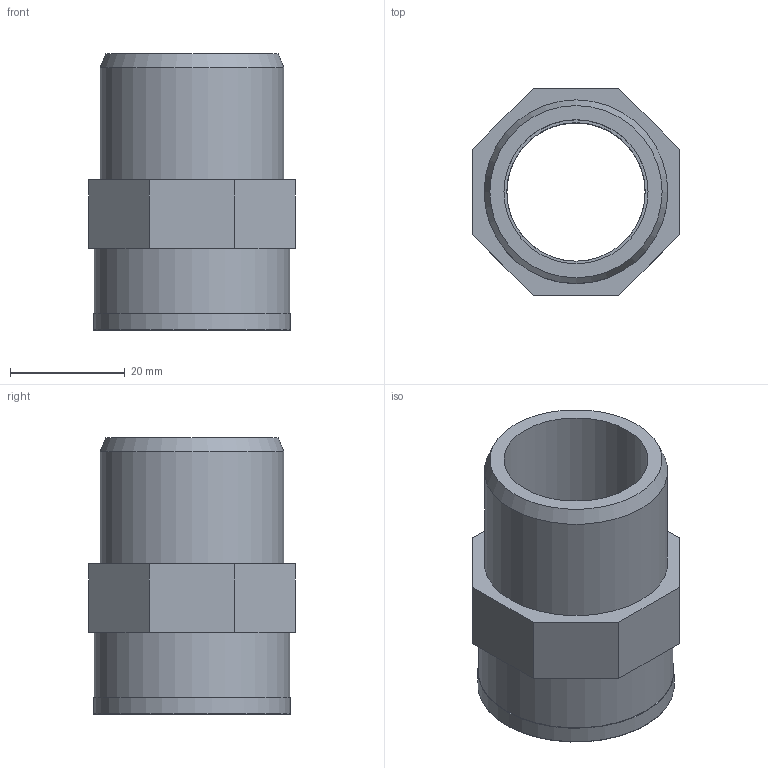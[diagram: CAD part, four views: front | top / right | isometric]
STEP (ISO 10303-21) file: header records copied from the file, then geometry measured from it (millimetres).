
FILE_DESCRIPTION(/* description */ (''),/* implementation_level */ '2;1');
FILE_NAME(/* name */ 'C:\Users\POLYPIPE\Desktop\DATASET INVENTOR\LIBRERIA EFFAST\RACCORDI 3DxWEB\RGR\3D_RGRAFR\3D_RGRAFR032C.stp',/* time_stamp */ '2018-01-19T17:30:46+01:00',/* author */ ('POLYPIPE'),/* organization */ (''),/* preprocessor_version */ 'ST-DEVELOPER v16.1',/* originating_system */ 'Autodesk Inventor 2016',/* authorisation */ '');
FILE_SCHEMA (('CONFIG_CONTROL_DESIGN'));
Length unit declared in the file: centimetre
Products named in the file (1): 3D_RGRAFR032C
Bounding box: 36 x 36 x 48.25 mm (x, y, z)
Volume: 19833.8 mm3; surface area: 11038.8 mm2
Topology: 1 solids, 1 shells, 29 faces, 64 edges, 42 vertices
Faces by surface type: plane 16, cylinder 6, bspline 5, cone 1, torus 1
Full cylindrical faces by diameter (mm): 24.117 x1, 25.1 x1, 28 x1, 32 x1, 34 x1, 34.2 x1
Entity records: 4418 total; most frequent: CARTESIAN_POINT 3768, DIRECTION 109, ORIENTED_EDGE 108, EDGE_CURVE 54, EDGE_LOOP 44, AXIS2_PLACEMENT_3D 41, VERTEX_POINT 40, STYLED_ITEM 30
